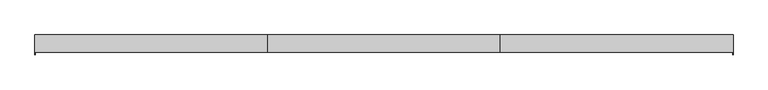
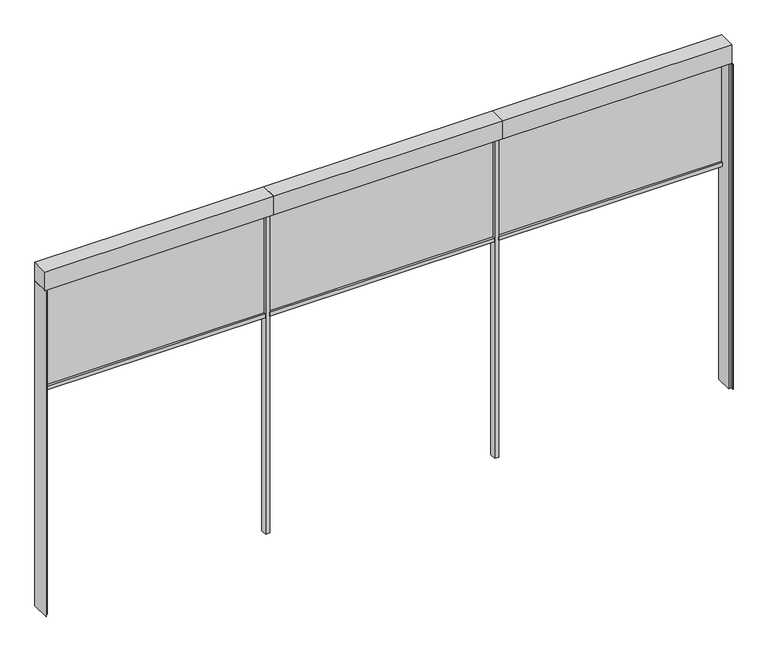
"""IFC4 building model written with IfcOpenShell, lengths in millimetres: proxy geometry, Renson_Fixscreen_Minimal_IM7B_With_CF : Recessed - Front of the window - Medium-CF - Access downwards - Fabric away from the window."""

from ifc_helpers import new_model, si_unit, frame, origin, place, context, project, spatial, polyline, outline, extrude, source, transform, mapped, element, save


def generic_models_a90540da(model_context):
    return source(origin(), model_context, "Body", "SweptSolid", [
        extrude(outline(polyline([(4076.0, 85.0), (4101.0, 85.0), (4101.0, -85.0), (4098.0, -85.0), (4098.0, -60.0), (4076.0, -60.0), (4076.0, 85.0)])), frame((0.0, 0.0, 800.0), z_axis=(0.0, 0.0, 1.0), x_axis=(1.0, 0.0, 0.0)), (0.0, 0.0, 1.0), 3000.0),
        extrude(outline(polyline([(-1874.0, 85.0), (-1874.0, -60.0), (-1896.0, -60.0), (-1896.0, -85.0), (-1899.0, -85.0), (-1899.0, 85.0), (-1874.0, 85.0)])), frame((0.0, 0.0, 800.0), z_axis=(0.0, 0.0, 1.0), x_axis=(1.0, 0.0, 0.0)), (0.0, 0.0, 1.0), 3000.0),
        extrude(outline(polyline([(-1874.95, 49.0), (-1874.95, 52.0), (82.75, 52.0), (82.75, 49.0), (-1874.95, 49.0)])), frame((0.0, 0.0, 2812.5006852), z_axis=(0.0, 0.0, 1.0), x_axis=(1.0, 0.0, 0.0)), (0.0, 0.0, 1.0), 987.4993148),
        extrude(outline(polyline([(119.35, 49.0), (119.35, 52.0), (2082.75, 52.0), (2082.75, 49.0), (119.35, 49.0)])), frame((0.0, 0.0, 2812.5006852), z_axis=(0.0, 0.0, 1.0), x_axis=(1.0, 0.0, 0.0)), (0.0, 0.0, 1.0), 987.4993148),
        extrude(outline(polyline([(70.95, 2800.0), (30.45, 2800.0), (30.45, 2834.1156799), (47.85, 2835.0275753), (47.85, 2812.5006852), (53.55, 2812.5006852), (53.55, 2835.0275753), (70.95, 2834.1156799), (70.95, 2800.0)])), frame((-1874.95, 0.0, 0.0), z_axis=(1.0, 0.0, 0.0), x_axis=(0.0, 1.0, 0.0)), (0.0, 0.0, 1.0), 1957.7),
        extrude(outline(polyline([(70.95, 2800.0), (30.45, 2800.0), (30.45, 2834.1156799), (47.85, 2835.0275753), (47.85, 2812.5006852), (53.55, 2812.5006852), (53.55, 2835.0275753), (70.95, 2834.1156799), (70.95, 2800.0)])), frame((119.35, 0.0, 0.0), z_axis=(1.0, 0.0, 0.0), x_axis=(0.0, 1.0, 0.0)), (0.0, 0.0, 1.0), 1963.4),
        extrude(outline(polyline([(70.9955279, 2800.0), (30.4955279, 2800.0), (30.4955279, 2834.1156799), (47.8955279, 2835.0275753), (47.8955279, 2812.5006852), (53.5955279, 2812.5006852), (53.5955279, 2835.0275753), (70.9955279, 2834.1156799), (70.9955279, 2800.0)])), frame((2119.3, 0.0, 0.0), z_axis=(1.0, 0.0, 0.0), x_axis=(0.0, 1.0, 0.0)), (0.0, 0.0, 1.0), 1957.7),
        extrude(outline(polyline([(2119.3, 49.0), (2119.3, 52.0), (4077.0, 52.0), (4077.0, 49.0), (2119.3, 49.0)])), frame((0.0, 0.0, 2812.5006852), z_axis=(0.0, 0.0, 1.0), x_axis=(1.0, 0.0, 0.0)), (0.0, 0.0, 1.0), 987.4993148),
        extrude(outline(polyline([(2101.0, -65.0), (2101.0, 85.0), (4101.0, 85.0), (4101.0, -65.0), (2101.0, -65.0)])), frame((0.0, 0.0, 3800.0), z_axis=(0.0, 0.0, 1.0), x_axis=(1.0, 0.0, 0.0)), (0.0, 0.0, 1.0), 170.0),
        extrude(outline(polyline([(101.0, -65.0), (101.0, 85.0), (2101.0, 85.0), (2101.0, -65.0), (101.0, -65.0)])), frame((0.0, 0.0, 3800.0), z_axis=(0.0, 0.0, 1.0), x_axis=(1.0, 0.0, 0.0)), (0.0, 0.0, 1.0), 170.0),
        extrude(outline(polyline([(-1899.0, -65.0), (-1899.0, 85.0), (101.0, 85.0), (101.0, -65.0), (-1899.0, -65.0)])), frame((0.0, 0.0, 3800.0), z_axis=(0.0, 0.0, 1.0), x_axis=(1.0, 0.0, 0.0)), (0.0, 0.0, 1.0), 170.0),
        extrude(outline(polyline([(119.25, 85.0), (119.25, 28.75), (82.75, 28.75), (82.75, 85.0), (119.25, 85.0)])), frame((0.0, 0.0, 800.0), z_axis=(0.0, 0.0, 1.0), x_axis=(1.0, 0.0, 0.0)), (0.0, 0.0, 1.0), 3000.0),
        extrude(outline(polyline([(2119.25, 85.0), (2119.25, 28.75), (2082.75, 28.75), (2082.75, 85.0), (2119.25, 85.0)])), frame((0.0, 0.0, 800.0), z_axis=(0.0, 0.0, 1.0), x_axis=(1.0, 0.0, 0.0)), (0.0, 0.0, 1.0), 3000.0),
    ])


if __name__ == "__main__":
    model = new_model("IFC4")
    model_context = context("Model", 3, world=origin())
    ifc_project = project(units=[si_unit("LENGTHUNIT", "METRE", prefix="MILLI")], contexts=[model_context])
    site = spatial("IfcSite", under=ifc_project)
    building = spatial("IfcBuilding", under=site)
    placement = place(None, origin())
    generic_models_shape = generic_models_a90540da(model_context)
    element("IfcBuildingElementProxy", 1, Name="Renson_Fixscreen_Minimal_IM7B_With_CF : Recessed - Front of the window - Medium-CF - Access downwards - Fabric away from the window", ObjectType="Renson_Fixscreen_Minimal_IM7B_With_CF : Recessed - Front of the window - Medium-CF - Access downwards - Fabric away from the window", at=placement, inside=building, context=model_context, shape_type="MappedRepresentation", body=[
        mapped(generic_models_shape, transform((0.0, 0.0, 0.0), x_axis=(1.0, 0.0, 0.0), y_axis=(0.0, 1.0, 0.0), z_axis=(0.0, 0.0, 1.0))),
    ])
    save(model, "model.ifc")
